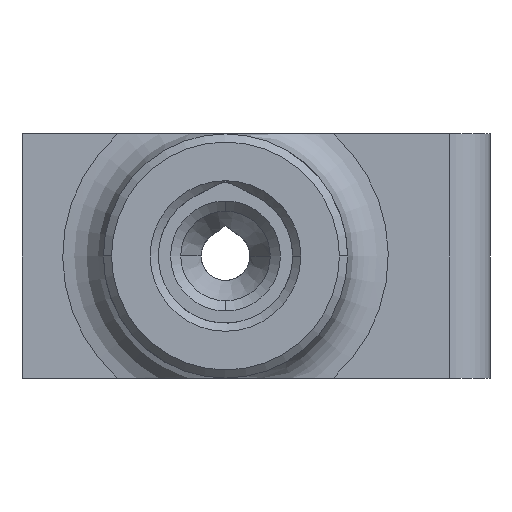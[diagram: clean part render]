
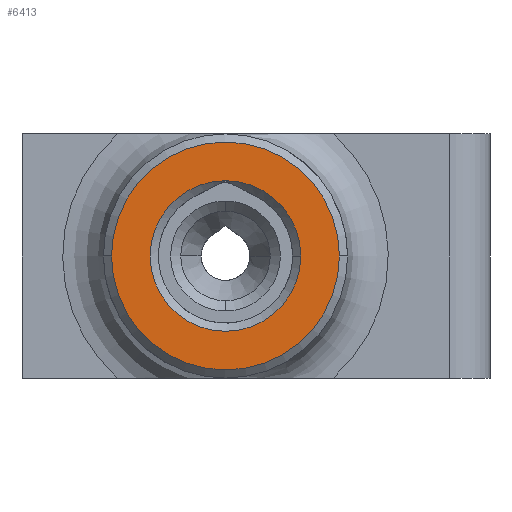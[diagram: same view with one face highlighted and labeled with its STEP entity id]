
A CAD part, front view. The second image highlights one B-rep face of the part: STEP entity #6413.
In plain terms, the highlighted planar face has unit normal (0, -1, 0).
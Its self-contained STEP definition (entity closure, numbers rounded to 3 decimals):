
#2096=CARTESIAN_POINT('',(0.,-16.8,0.));
#2097=DIRECTION('',(0.,1.,0.));
#2098=DIRECTION('',(1.,0.,0.));
#2099=AXIS2_PLACEMENT_3D('',#2096,#2097,#2098);
#2101=CARTESIAN_POINT('',(0.,-16.8,3.7));
#2113=CARTESIAN_POINT('',(0.,-16.8,0.));
#2114=DIRECTION('',(0.,1.,0.));
#2115=DIRECTION('',(1.,0.,0.));
#2116=AXIS2_PLACEMENT_3D('',#2113,#2114,#2115);
#2118=CARTESIAN_POINT('',(0.,-16.8,0.));
#2119=DIRECTION('',(0.,1.,0.));
#2120=DIRECTION('',(0.,0.,-1.));
#2121=AXIS2_PLACEMENT_3D('',#2118,#2119,#2120);
#2123=CARTESIAN_POINT('',(0.,-16.8,0.));
#2124=DIRECTION('',(0.,1.,0.));
#2125=DIRECTION('',(-1.,0.,0.));
#2126=AXIS2_PLACEMENT_3D('',#2123,#2124,#2125);
#2128=CARTESIAN_POINT('',(0.,-16.8,0.));
#2129=DIRECTION('',(0.,1.,0.));
#2130=DIRECTION('',(0.,0.,1.));
#2131=AXIS2_PLACEMENT_3D('',#2128,#2129,#2130);
#2133=CARTESIAN_POINT('',(0.,-16.8,0.));
#2134=DIRECTION('',(0.,-1.,0.));
#2135=DIRECTION('',(1.,0.,0.));
#2136=AXIS2_PLACEMENT_3D('',#2133,#2134,#2135);
#3414=CARTESIAN_POINT('',(0.,-16.8,-5.6));
#3415=CARTESIAN_POINT('',(-5.6,-16.8,0.));
#3416=VERTEX_POINT('',#3414);
#3417=VERTEX_POINT('',#3415);
#3418=CARTESIAN_POINT('',(5.6,-16.8,0.));
#3419=VERTEX_POINT('',#3418);
#3420=CARTESIAN_POINT('',(0.,-16.8,5.6));
#3421=VERTEX_POINT('',#3420);
#3423=CARTESIAN_POINT('',(3.7,-16.8,0.));
#3425=VERTEX_POINT('',#3423);
#3642=VERTEX_POINT('',#2101);
#6393=CARTESIAN_POINT('',(0.,-16.8,-6.));
#6394=DIRECTION('',(0.,-1.,0.));
#6395=DIRECTION('',(-1.,0.,0.));
#6396=AXIS2_PLACEMENT_3D('',#6393,#6394,#6395);
#6397=PLANE('',#6396);
#6399=ORIENTED_EDGE('',*,*,#6398,.T.);
#6401=ORIENTED_EDGE('',*,*,#6400,.T.);
#6403=ORIENTED_EDGE('',*,*,#6402,.T.);
#6405=ORIENTED_EDGE('',*,*,#6404,.T.);
#6406=EDGE_LOOP('',(#6399,#6401,#6403,#6405));
#6407=FACE_OUTER_BOUND('',#6406,.F.);
#6408=ORIENTED_EDGE('',*,*,#6383,.F.);
#6410=ORIENTED_EDGE('',*,*,#6409,.T.);
#6411=EDGE_LOOP('',(#6408,#6410));
#6412=FACE_BOUND('',#6411,.F.);
#6413=ADVANCED_FACE('',(#6407,#6412),#6397,.T.);
#2100=CIRCLE('',#2099,3.7);
#2117=CIRCLE('',#2116,5.6);
#2122=CIRCLE('',#2121,5.6);
#2127=CIRCLE('',#2126,5.6);
#2132=CIRCLE('',#2131,5.6);
#2137=CIRCLE('',#2136,3.7);
#6383=EDGE_CURVE('',#3425,#3642,#2100,.T.);
#6398=EDGE_CURVE('',#3419,#3416,#2117,.T.);
#6400=EDGE_CURVE('',#3416,#3417,#2122,.T.);
#6402=EDGE_CURVE('',#3417,#3421,#2127,.T.);
#6404=EDGE_CURVE('',#3421,#3419,#2132,.T.);
#6409=EDGE_CURVE('',#3425,#3642,#2137,.T.);
